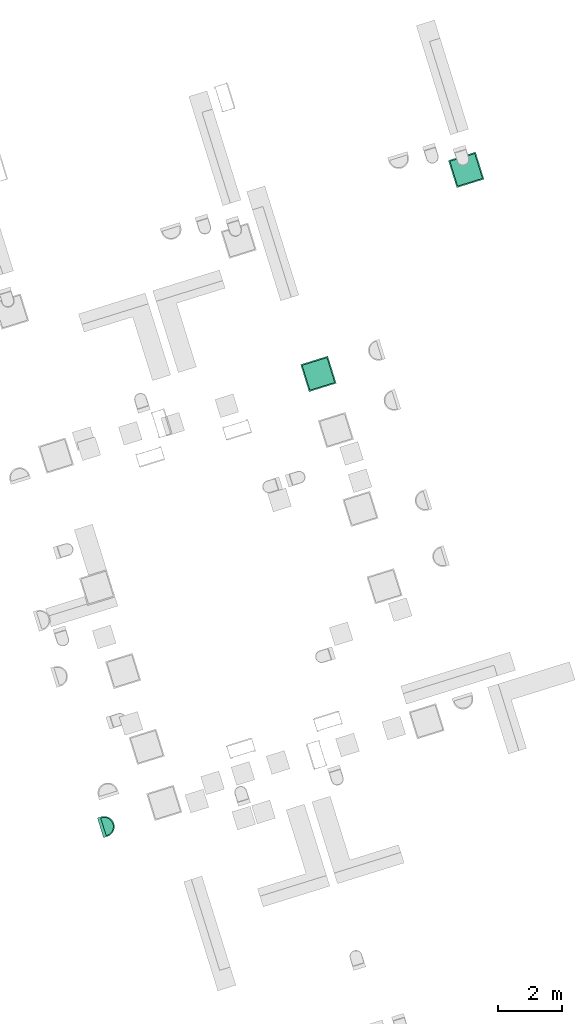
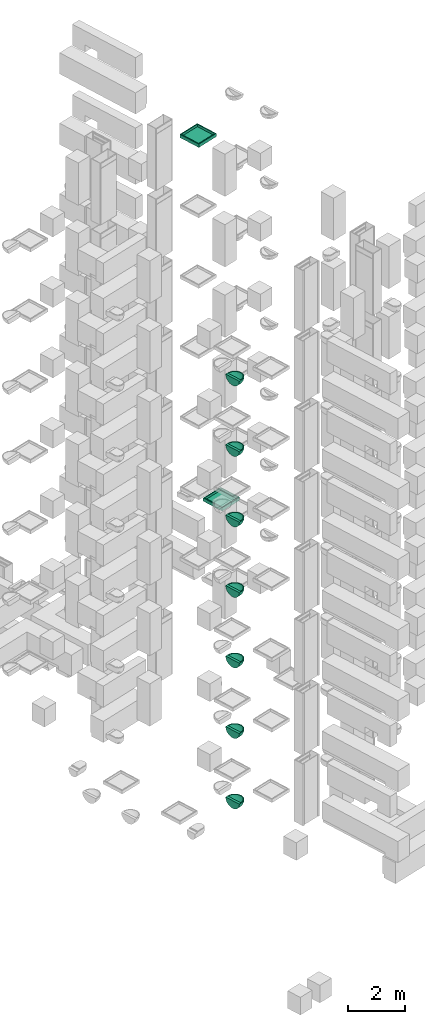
# Not in any storey, part 5 of 17: 9 sanitary terminals.
"""IFC4 model written with IfcOpenShell, lengths in metres."""

from ifc_helpers import new_model, entity, si_unit, converted_unit, direction, frame, origin, place, context, subcontext, project, polygons, source, transform, mapped, material, type_object, type_shapes, element, save


model = new_model("IFC4")

# Units and contexts
model_context = context("Model", 3, precision=1e-05, world=origin(), true_north=direction((6.12323399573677e-17, 1.0)))
body_context = subcontext(model_context, "Body", "Model", "MODEL_VIEW")
ifc_project = project(units=[si_unit("LENGTHUNIT", "METRE"), si_unit("AREAUNIT", "SQUARE_METRE"), converted_unit("PLANEANGLEUNIT", "DEGREE", entity("IfcPlaneAngleMeasure", 0.0174532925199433), si_unit("PLANEANGLEUNIT", "RADIAN"), dimensions=[0, 0, 0, 0, 0, 0, 0]), si_unit("VOLUMEUNIT", "CUBIC_METRE")], contexts=[model_context])

# Sanitary terminals
ifc_material = material(Name="<Unnamed>")
sanitary_terminal_type_1 = type_object("IfcSanitaryTerminalType", Name="NLRS_74_PF_UN_douche_gen:douchebak 900x900mm", PredefinedType="NOTDEFINED", material=ifc_material)
shared_shape_1 = source(origin(), body_context, "Body", "Tessellation", [
    polygons([(1.65924045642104, -0.403499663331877, -6.76), (1.65924045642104, 0.496500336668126, -6.76), (0.759240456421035, 0.496500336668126, -6.76), (0.759240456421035, -0.403499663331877, -6.76), (0.799240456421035, -0.36349966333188, -6.76), (0.799240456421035, 0.456500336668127, -6.76), (1.61924045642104, 0.456500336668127, -6.76), (1.61924045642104, -0.36349966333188, -6.76), (1.65924045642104, -0.403499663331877, -6.9), (0.759240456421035, -0.403499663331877, -6.9), (0.759240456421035, 0.496500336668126, -6.9), (1.65924045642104, 0.496500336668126, -6.9), (1.61924045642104, -0.36349966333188, -6.86), (1.61924045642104, 0.456500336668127, -6.86), (0.799240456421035, 0.456500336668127, -6.86), (0.799240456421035, -0.36349966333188, -6.86)], [[[1, 2, 3, 4], [5, 6, 7, 8]], [[9, 10, 11, 12]], [[4, 10, 9, 1]], [[3, 11, 10, 4]], [[2, 12, 11, 3]], [[1, 9, 12, 2]], [[13, 14, 15, 16]], [[16, 5, 8, 13]], [[15, 6, 5, 16]], [[14, 7, 6, 15]], [[13, 8, 7, 14]]], closed=True),
])
type_shapes(sanitary_terminal_type_1, [shared_shape_1])
placement_1 = place(None, frame((13.1347999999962, 11.9886000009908, 0.0), z_axis=(0.0, 0.0, 1.0), x_axis=(0.954770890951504, 0.297342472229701, 0.0)))
placement_2 = place(placement_1, origin())
placement_3 = place(placement_2, frame((0.0, 0.0, 3.9)))
placement_4 = place(placement_3, origin())
sanitary_terminal_1_placement = place(placement_4, frame((79.4715003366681, 26.3157595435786, 6.9), z_axis=(0.0, 0.0, 1.0), x_axis=(0.0, 1.0, 0.0)))
element("IfcSanitaryTerminal", 1, at=sanitary_terminal_1_placement, type_object=sanitary_terminal_type_1, material=ifc_material, Name="NLRS_74_PF_UN_douche_gen:douchebak 900x900mm", ObjectType="NLRS_74_PF_UN_douche_gen:douchebak 900x900mm", PredefinedType="NOTDEFINED", context=body_context, shape_type="MappedRepresentation", body=[
    mapped(shared_shape_1, transform((0.0, 0.0, 0.0), scale=1.0)),
])
placement_5 = place(placement_2, frame((0.0, 0.0, 24.9)))
placement_6 = place(placement_5, origin())
sanitary_terminal_2_placement = place(placement_6, frame((74.2842404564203, 22.8215003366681, 6.9), z_axis=(0.0, 0.0, 1.0), x_axis=(-1.0, 0.0, 0.0)))
element("IfcSanitaryTerminal", 2, at=sanitary_terminal_2_placement, type_object=sanitary_terminal_type_1, material=ifc_material, Name="NLRS_74_PF_UN_douche_gen:douchebak 900x900mm", ObjectType="NLRS_74_PF_UN_douche_gen:douchebak 900x900mm", PredefinedType="NOTDEFINED", context=body_context, shape_type="MappedRepresentation", body=[
    mapped(shared_shape_1, transform((0.0, 0.0, 0.0), scale=1.0)),
])
sanitary_terminal_type_2 = type_object("IfcSanitaryTerminalType", Name="NLRS_74_PF_WB_wastafel_gen:wastafel", PredefinedType="SINK", material=ifc_material)
shared_shape_2 = source(origin(), body_context, "Body", "Tessellation", [
    polygons([(-0.303081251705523, -0.175000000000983, -6.7), (-0.296836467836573, -0.238404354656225, -6.7), (-0.278342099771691, -0.299372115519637, -6.7), (-0.248308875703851, -0.355560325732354, -6.7), (-0.207890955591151, -0.404809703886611, -6.7), (-0.158641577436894, -0.44522762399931, -6.7), (-0.102453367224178, -0.475260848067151, -6.7), (-0.0414856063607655, -0.493755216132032, -6.7), (0.021918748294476, -0.500000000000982, -6.7), (0.021918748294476, -0.463314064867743, -6.7), (-0.00821701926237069, -0.461734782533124, -6.7), (-0.038024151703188, -0.457013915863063, -6.7), (-0.0671705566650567, -0.449204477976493, -6.7), (-0.0953421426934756, -0.438391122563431, -6.7), (-0.122231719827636, -0.424691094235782, -6.7), (-0.147543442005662, -0.408254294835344, -6.7), (-0.170998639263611, -0.389261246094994, -6.7), (-0.192339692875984, -0.367920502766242, -6.7), (-0.21133265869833, -0.344466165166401, -6.7), (-0.227769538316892, -0.319155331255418, -6.7), (-0.241470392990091, -0.292265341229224, -6.7), (-0.252285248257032, -0.264090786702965, -6.7), (-0.260095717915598, -0.234940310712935, -6.7), (-0.264816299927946, -0.205133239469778, -6.7), (-0.266395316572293, -0.175000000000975, -6.7), (-0.266395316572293, -0.150000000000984, -6.7), (0.021918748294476, -0.150000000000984, -6.7), (0.021918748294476, -0.0499999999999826, -6.7), (-0.303081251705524, -0.0499999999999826, -6.7), (0.346918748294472, -0.175000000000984, -6.7), (0.346918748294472, -0.0499999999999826, -6.7), (0.310232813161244, -0.150000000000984, -6.7), (0.310232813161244, -0.175000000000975, -6.7), (0.308653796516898, -0.205133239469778, -6.7), (0.303933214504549, -0.234940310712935, -6.7), (0.296122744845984, -0.264090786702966, -6.7), (0.285307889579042, -0.292265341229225, -6.7), (0.271607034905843, -0.319155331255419, -6.7), (0.255170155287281, -0.344466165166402, -6.7), (0.236177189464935, -0.367920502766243, -6.7), (0.214836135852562, -0.389261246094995, -6.7), (0.191380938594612, -0.408254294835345, -6.7), (0.166069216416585, -0.424691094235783, -6.7), (0.139179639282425, -0.438391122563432, -6.7), (0.111008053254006, -0.449204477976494, -6.7), (0.0818616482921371, -0.457013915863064, -6.7), (0.0520545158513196, -0.461734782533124, -6.7), (0.0853231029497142, -0.493755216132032, -6.7), (0.146290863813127, -0.475260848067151, -6.7), (0.202479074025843, -0.44522762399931, -6.7), (0.2517284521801, -0.404809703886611, -6.7), (0.292146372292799, -0.355560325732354, -6.7), (0.32217959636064, -0.299372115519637, -6.7), (0.340673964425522, -0.238404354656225, -6.7), (-0.296836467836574, -0.0499999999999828, -6.76340435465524), (-0.278342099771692, -0.049999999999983, -6.82437211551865), (-0.248308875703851, -0.0499999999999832, -6.88056032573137), (-0.207890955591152, -0.0499999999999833, -6.92980970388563), (-0.158641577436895, -0.0499999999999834, -6.97022762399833), (-0.102453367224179, -0.0499999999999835, -7.00026084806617), (-0.0414856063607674, -0.0499999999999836, -7.01875521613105), (0.0219187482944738, -0.0499999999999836, -7.025), (0.085323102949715, -0.0499999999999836, -7.01875521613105), (0.146290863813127, -0.0499999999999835, -7.00026084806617), (0.202479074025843, -0.0499999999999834, -6.97022762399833), (0.2517284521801, -0.0499999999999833, -6.92980970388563), (0.292146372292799, -0.0499999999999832, -6.88056032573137), (0.32217959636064, -0.049999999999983, -6.82437211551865), (0.340673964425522, -0.0499999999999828, -6.76340435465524), (0.34246627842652, -0.175000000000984, -6.75361232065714), (0.329230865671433, -0.175000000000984, -6.8057556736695), (0.307575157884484, -0.175000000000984, -6.85500134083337), (0.278092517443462, -0.175000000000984, -6.9), (0.278092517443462, -0.0749999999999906, -6.9), (0.237763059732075, -0.0749999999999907, -6.94297372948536), (0.190336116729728, -0.0749999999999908, -6.97795789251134), (0.137371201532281, -0.0749999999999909, -7.00380212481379), (0.0806099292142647, -0.074999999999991, -7.01965660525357), (0.0219187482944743, -0.074999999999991, -7.025), (-0.0367724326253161, -0.074999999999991, -7.01965660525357), (-0.0935337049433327, -0.0749999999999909, -7.00380212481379), (-0.146498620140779, -0.0749999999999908, -6.97795789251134), (-0.193925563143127, -0.0749999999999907, -6.94297372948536), (-0.234255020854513, -0.0749999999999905, -6.9), (-0.234255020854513, -0.175000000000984, -6.9), (-0.263737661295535, -0.175000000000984, -6.85500134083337), (-0.285393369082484, -0.175000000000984, -6.8057556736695), (-0.298628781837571, -0.175000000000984, -6.75361232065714), (-0.228099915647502, -0.0499999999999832, -6.9051850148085), (-0.183266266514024, -0.0499999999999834, -6.95001866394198), (-0.130547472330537, -0.0499999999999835, -6.98524423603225), (-0.0719694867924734, -0.0499999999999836, -7.00950803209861), (0.115806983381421, -0.0499999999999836, -7.00950803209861), (0.174384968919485, -0.0499999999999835, -6.98524423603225), (0.227103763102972, -0.0499999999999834, -6.95001866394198), (0.27193741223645, -0.0499999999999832, -6.9051850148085), (0.257927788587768, -0.0749999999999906, -6.92148686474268), (0.214049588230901, -0.0749999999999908, -6.96046581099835), (-0.170212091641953, -0.0749999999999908, -6.96046581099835), (-0.21409029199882, -0.0749999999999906, -6.92148686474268), (-0.120016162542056, -0.0749999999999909, -6.99088000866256), (-0.0651530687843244, -0.0749999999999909, -7.01172936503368), (0.108990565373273, -0.0749999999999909, -7.01172936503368), (0.163853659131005, -0.0749999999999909, -6.99088000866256), (-0.232753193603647, -0.202698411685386, -6.9), (-0.228265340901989, -0.230071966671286, -6.9), (-0.220844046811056, -0.256799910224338, -6.9), (-0.210576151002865, -0.282569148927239, -6.9), (-0.197581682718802, -0.307077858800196, -6.9), (-0.182012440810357, -0.33003893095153, -6.9), (-0.164050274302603, -0.351183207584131, -6.9), (-0.1439051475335, -0.370262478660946, -6.9), (-0.121813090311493, -0.387052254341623, -6.9), (-0.0980340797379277, -0.401354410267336, -6.9), (-0.0728496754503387, -0.412999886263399, -6.9), (-0.0465597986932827, -0.421851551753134, -6.9), (-0.0194777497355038, -0.427806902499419, -6.9), (0.00807674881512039, -0.43079952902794, -6.9), (0.0357845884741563, -0.430798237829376, -6.9), (0.0633306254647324, -0.427804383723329, -6.9), (0.0904016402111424, -0.421850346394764, -6.9), (0.116683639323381, -0.413001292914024, -6.9), (0.141864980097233, -0.401357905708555, -6.9), (0.165644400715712, -0.38705644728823, -6.9), (0.18773840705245, -0.370266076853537, -6.9), (0.207885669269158, -0.351185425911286, -6.9), (0.225849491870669, -0.330039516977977, -6.9), (0.24141970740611, -0.307076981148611, -6.9), (0.254414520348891, -0.282567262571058, -6.9), (0.264682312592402, -0.256797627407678, -6.9), (0.272103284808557, -0.230069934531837, -6.9), (0.27659082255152, -0.202697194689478, -6.9), (-0.257045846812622, -0.297316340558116, -6.81332461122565), (0.300884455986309, -0.297313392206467, -6.81332505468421), (-0.00978342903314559, -0.496877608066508, -6.7), (-0.205655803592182, -0.378737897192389, -6.81102113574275), (0.249493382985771, -0.378737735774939, -6.81102126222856), (0.0536209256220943, -0.496877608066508, -6.7), (0.0219337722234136, -0.481913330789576, -6.80690747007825), (-0.0719694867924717, -0.484508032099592, -6.7), (0.11580698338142, -0.484508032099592, -6.7), (-0.0425022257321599, -0.471258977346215, -6.81707073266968), (-0.165040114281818, -0.416191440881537, -6.81179477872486), (0.20887408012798, -0.416198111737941, -6.81178629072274), (0.0863501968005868, -0.471256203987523, -6.8170719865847), (-0.23446246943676, -0.305265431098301, -6.85140868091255), (0.278301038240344, -0.305263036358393, -6.85140892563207), (-0.120243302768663, -0.443687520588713, -6.81498681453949), (0.164074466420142, -0.443691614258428, -6.81498507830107), (-0.233336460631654, -0.358005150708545, -6.78353976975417), (0.277175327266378, -0.358003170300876, -6.78353992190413), (-0.290060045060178, -0.240925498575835, -6.76283359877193), (0.333897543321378, -0.240925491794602, -6.76283359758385), (-0.275008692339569, -0.237028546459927, -6.81666856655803), (-0.254394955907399, -0.239447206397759, -6.85850014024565), (-0.272362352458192, -0.296908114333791, -6.76451391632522), (0.31884634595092, -0.237026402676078, -6.81666930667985), (0.298232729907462, -0.239444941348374, -6.85850057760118), (0.316201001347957, -0.296905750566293, -6.76451312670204), (-0.0755829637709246, -0.474402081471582, -6.78047862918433), (-0.0690330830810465, -0.449635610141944, -6.84808121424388), (0.119420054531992, -0.474406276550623, -6.7804635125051), (0.112885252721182, -0.449636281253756, -6.84807095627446), (-0.228099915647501, -0.380185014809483, -6.7), (0.27193741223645, -0.380185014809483, -6.7), (-0.183266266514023, -0.425018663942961, -6.7), (0.227103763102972, -0.425018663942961, -6.7), (-0.130547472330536, -0.460244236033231, -6.7), (0.174384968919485, -0.460244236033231, -6.7), (0.278352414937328, -0.175000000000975, -6.74966665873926), (0.238015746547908, -0.175000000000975, -6.79274902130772), (0.190552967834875, -0.175000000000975, -6.82782638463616), (0.137529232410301, -0.175000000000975, -6.85374202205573), (0.0806930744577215, -0.175000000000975, -6.86964132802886), (0.0219187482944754, -0.175000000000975, -6.875), (-0.0368555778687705, -0.175000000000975, -6.86964132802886), (-0.0936917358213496, -0.175000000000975, -6.85374202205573), (-0.146715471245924, -0.175000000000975, -6.82782638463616), (-0.194178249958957, -0.175000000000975, -6.79274902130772), (-0.234514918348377, -0.175000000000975, -6.74966665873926), (-0.119627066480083, -0.322173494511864, -6.80284332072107), (0.163464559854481, -0.32217349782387, -6.8028433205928), (-0.200517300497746, -0.262511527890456, -6.77020203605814), (0.244354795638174, -0.262511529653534, -6.77020203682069), (-0.162633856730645, -0.347041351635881, -6.75485875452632), (0.206471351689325, -0.347041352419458, -6.75485875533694), (0.00220012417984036, -0.367185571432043, -6.81134437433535), (-0.0912046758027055, -0.393814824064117, -6.76200981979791), (0.135042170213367, -0.393814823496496, -6.76200982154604), (0.0498196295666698, -0.280825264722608, -6.85601887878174), (-0.0620730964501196, -0.266760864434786, -6.85025041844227), (0.160889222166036, -0.248929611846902, -6.83433540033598), (0.0405814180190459, -0.417340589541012, -6.76574926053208), (0.0863370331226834, -0.354389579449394, -6.81323879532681), (-0.00909478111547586, -0.420066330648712, -6.76120050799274), (-0.0478694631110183, -0.381606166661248, -6.79097405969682), (-0.0422183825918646, -0.327597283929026, -6.82968821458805), (-0.0074080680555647, -0.286981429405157, -6.8536858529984), (-0.00719351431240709, -0.22811728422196, -6.869305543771), (-0.0504034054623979, -0.422275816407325, -6.7481140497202), (0.115439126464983, -0.298042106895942, -6.83590134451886), (0.101584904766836, -0.237319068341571, -6.85886022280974), (-0.144773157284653, -0.251326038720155, -6.81835264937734), (0.0860600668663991, -0.418745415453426, -6.75518056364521), (0.278341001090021, -0.150000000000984, -6.74968131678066), (0.238003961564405, -0.150000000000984, -6.79275951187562), (0.19054233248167, -0.150000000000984, -6.82783283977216), (0.137520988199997, -0.150000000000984, -6.85374515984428), (0.080687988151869, -0.150000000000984, -6.86964226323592), (0.021917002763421, -0.150000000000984, -6.87499999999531), (-0.0368543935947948, -0.150000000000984, -6.869641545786), (-0.0936885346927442, -0.150000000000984, -6.85374324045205), (-0.146711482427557, -0.150000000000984, -6.8278288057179), (-0.19417475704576, -0.150000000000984, -6.79275213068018), (-0.234512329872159, -0.150000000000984, -6.74966998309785)], [[[9, 138, 48, 141, 49, 169, 50, 167, 51, 165, 52, 53, 54, 30, 31, 28, 29, 1, 2, 3, 4, 164, 5, 166, 6, 168, 7, 140, 8, 135], [10, 11, 12, 13, 14, 15, 16, 17, 18, 19, 20, 21, 22, 23, 24, 25, 26, 27, 32, 33, 34, 35, 36, 37, 38, 39, 40, 41, 42, 43, 44, 45, 46, 47]], [[1, 29, 88]], [[87, 88, 55]], [[56, 86, 87]], [[58, 100, 89]], [[93, 103, 63]], [[91, 60, 101]], [[97, 75, 66]], [[61, 102, 92]], [[61, 62, 80]], [[84, 85, 86]], [[94, 65, 76]], [[89, 84, 57]], [[86, 56, 57]], [[88, 29, 55]], [[55, 56, 87]], [[86, 57, 84]], [[82, 59, 91]], [[92, 81, 60]], [[58, 90, 83]], [[59, 82, 99]], [[93, 64, 77]], [[59, 99, 90]], [[84, 89, 100]], [[100, 58, 83]], [[81, 101, 60]], [[62, 79, 80]], [[103, 93, 77]], [[98, 76, 65]], [[98, 95, 75]], [[95, 66, 75]], [[101, 82, 91]], [[104, 94, 76]], [[69, 70, 71]], [[72, 73, 74]], [[71, 72, 68]], [[80, 102, 61]], [[78, 79, 62]], [[30, 70, 31]], [[83, 90, 99]], [[78, 63, 103]], [[104, 77, 64]], [[65, 95, 98]], [[102, 81, 92]], [[62, 63, 78]], [[96, 67, 74]], [[97, 66, 96]], [[67, 72, 74]], [[72, 67, 68]], [[68, 69, 71]], [[69, 31, 70]], [[97, 96, 74]], [[94, 104, 64]], [[28, 31, 69, 68, 67, 96, 66, 95, 65, 94, 64, 93, 63, 62, 61, 92, 60, 91, 59, 90, 58, 89, 57, 56, 55, 29]], [[6, 136, 143]], [[52, 159, 53]], [[158, 157, 134]], [[111, 112, 143]], [[136, 150, 146]], [[143, 110, 111]], [[129, 147, 128]], [[110, 143, 136]], [[148, 143, 112]], [[159, 157, 153]], [[161, 115, 116]], [[139, 135, 142]], [[53, 159, 153]], [[142, 117, 118]], [[143, 148, 7]], [[8, 160, 142]], [[134, 151, 147]], [[148, 161, 160]], [[114, 148, 113]], [[7, 148, 140]], [[8, 140, 160]], [[130, 131, 158]], [[136, 146, 109]], [[152, 3, 2]], [[160, 140, 148]], [[87, 152, 88]], [[154, 133, 156]], [[1, 88, 2]], [[2, 88, 152]], [[165, 51, 151]], [[147, 151, 137]], [[4, 3, 156]], [[142, 161, 116]], [[139, 142, 118]], [[107, 155, 106]], [[146, 107, 108]], [[124, 125, 149]], [[166, 5, 150]], [[155, 86, 85]], [[118, 119, 139]], [[86, 154, 87]], [[154, 86, 155]], [[148, 114, 161]], [[139, 145, 138]], [[107, 146, 155]], [[136, 109, 110]], [[150, 164, 133]], [[85, 105, 155]], [[142, 160, 161]], [[48, 138, 145]], [[158, 73, 72]], [[146, 108, 109]], [[9, 135, 139]], [[9, 139, 138]], [[119, 145, 139]], [[8, 142, 135]], [[120, 121, 145]], [[124, 149, 123]], [[49, 141, 149]], [[137, 50, 144]], [[156, 152, 154]], [[133, 155, 146]], [[137, 144, 127]], [[112, 113, 148]], [[162, 145, 163]], [[134, 165, 151]], [[149, 125, 144]], [[127, 128, 137]], [[120, 145, 119]], [[155, 133, 154]], [[48, 145, 162]], [[152, 156, 3]], [[133, 146, 150]], [[168, 6, 143, 7]], [[144, 125, 126]], [[144, 126, 127]], [[163, 145, 121]], [[151, 167, 137]], [[147, 137, 128]], [[142, 116, 117]], [[157, 158, 72]], [[158, 147, 130]], [[141, 48, 162]], [[158, 134, 147]], [[147, 129, 130]], [[72, 71, 157]], [[158, 132, 73]], [[87, 154, 152]], [[70, 54, 153]], [[163, 122, 123]], [[167, 50, 137]], [[133, 164, 156]], [[54, 70, 30]], [[71, 70, 153]], [[136, 166, 150]], [[159, 134, 157]], [[158, 131, 132]], [[53, 153, 54]], [[169, 49, 144, 50]], [[105, 106, 155]], [[150, 5, 164]], [[165, 134, 159]], [[71, 153, 157]], [[114, 115, 161]], [[162, 149, 141]], [[163, 123, 149]], [[162, 163, 149]], [[122, 163, 121]], [[4, 156, 164]], [[159, 52, 165]], [[166, 136, 6]], [[167, 151, 51]], [[149, 144, 49]], [[185, 16, 15]], [[198, 187, 190]], [[185, 18, 17]], [[190, 202, 199]], [[187, 198, 197]], [[20, 185, 183]], [[15, 14, 188]], [[181, 197, 191]], [[193, 195, 10]], [[204, 194, 193]], [[177, 203, 191]], [[196, 187, 197]], [[196, 200, 195]], [[10, 195, 11]], [[185, 15, 188]], [[187, 196, 195]], [[200, 196, 188]], [[191, 197, 198]], [[22, 183, 23]], [[13, 200, 188]], [[180, 24, 23]], [[190, 194, 201]], [[202, 201, 192]], [[25, 24, 180]], [[183, 22, 21]], [[200, 12, 11]], [[179, 183, 203]], [[178, 203, 177]], [[201, 202, 190]], [[180, 183, 179]], [[23, 183, 180]], [[19, 18, 185]], [[20, 183, 21]], [[172, 184, 171]], [[13, 188, 14]], [[185, 20, 19]], [[190, 199, 198]], [[16, 185, 17]], [[181, 188, 196]], [[191, 199, 176]], [[193, 187, 195]], [[194, 189, 182]], [[189, 43, 186]], [[184, 192, 182]], [[173, 174, 202]], [[45, 44, 189]], [[204, 47, 46]], [[186, 43, 42]], [[186, 41, 40]], [[181, 196, 197]], [[38, 184, 186]], [[187, 193, 194]], [[45, 189, 204]], [[39, 38, 186]], [[182, 201, 194]], [[186, 42, 41]], [[199, 175, 176]], [[184, 38, 37]], [[189, 44, 43]], [[177, 191, 176]], [[192, 184, 172]], [[172, 173, 192]], [[186, 184, 182]], [[203, 183, 181]], [[191, 198, 199]], [[185, 188, 181]], [[184, 170, 171]], [[11, 195, 200]], [[12, 200, 13]], [[184, 35, 170]], [[170, 34, 33]], [[34, 170, 35]], [[193, 10, 47]], [[186, 40, 39]], [[175, 199, 202]], [[36, 35, 184]], [[36, 184, 37]], [[183, 185, 181]], [[201, 182, 192]], [[204, 46, 45]], [[187, 194, 190]], [[189, 186, 182]], [[173, 202, 192]], [[202, 174, 175]], [[191, 203, 181]], [[179, 203, 178]], [[194, 204, 189]], [[47, 204, 193]], [[180, 26, 25]], [[179, 215, 180]], [[213, 178, 177]], [[179, 178, 214]], [[212, 177, 176]], [[215, 26, 180]], [[214, 215, 179]], [[210, 211, 176]], [[212, 213, 177]], [[211, 212, 176]], [[214, 178, 213]], [[176, 175, 210]], [[209, 175, 174]], [[173, 208, 174]], [[206, 172, 171]], [[173, 172, 207]], [[205, 171, 170]], [[209, 174, 208]], [[208, 173, 207]], [[171, 205, 206]], [[206, 207, 172]], [[205, 170, 32]], [[33, 32, 170]], [[175, 209, 210]], [[32, 27, 26, 215, 214, 213, 212, 211, 210, 209, 208, 207, 206, 205]], [[82, 101, 81, 102, 80, 79, 78, 103, 77, 104, 76, 98, 75, 97, 74, 84, 100, 83, 99]], [[73, 132, 131, 130, 129, 128, 127, 126, 125, 124, 123, 122, 121, 120, 119, 118, 117, 116, 115, 114, 113, 112, 111, 110, 109, 108, 107, 106, 105, 85, 84, 74]]], closed=True),
])
type_shapes(sanitary_terminal_type_2, [shared_shape_2])
placement_7 = place(placement_2, frame((0.0, 0.0, 6.9)))
placement_8 = place(placement_7, origin())
sanitary_terminal_3_placement = place(placement_8, frame((62.225, 11.1530812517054, 7.525), z_axis=(0.0, 0.0, 1.0), x_axis=(0.0, 1.0, 0.0)))
element("IfcSanitaryTerminal", 3, at=sanitary_terminal_3_placement, type_object=sanitary_terminal_type_2, material=ifc_material, Name="NLRS_74_PF_WB_wastafel_gen:wastafel", ObjectType="NLRS_74_PF_WB_wastafel_gen:wastafel", PredefinedType="SINK", context=body_context, shape_type="MappedRepresentation", body=[
    mapped(shared_shape_2, transform((0.0, 0.0, 0.0), scale=1.0)),
])
placement_9 = place(placement_2, frame((0.0, 0.0, 9.9)))
placement_10 = place(placement_9, origin())
sanitary_terminal_4_placement = place(placement_10, frame((62.225, 11.1530812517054, 7.525), z_axis=(0.0, 0.0, 1.0), x_axis=(0.0, 1.0, 0.0)))
element("IfcSanitaryTerminal", 4, at=sanitary_terminal_4_placement, type_object=sanitary_terminal_type_2, material=ifc_material, Name="NLRS_74_PF_WB_wastafel_gen:wastafel", ObjectType="NLRS_74_PF_WB_wastafel_gen:wastafel", PredefinedType="SINK", context=body_context, shape_type="MappedRepresentation", body=[
    mapped(shared_shape_2, transform((0.0, 0.0, 0.0), scale=1.0)),
])
placement_11 = place(placement_2, frame((0.0, 0.0, 12.9)))
placement_12 = place(placement_11, origin())
sanitary_terminal_5_placement = place(placement_12, frame((62.225, 11.1530812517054, 7.525), z_axis=(0.0, 0.0, 1.0), x_axis=(0.0, 1.0, 0.0)))
element("IfcSanitaryTerminal", 5, at=sanitary_terminal_5_placement, type_object=sanitary_terminal_type_2, material=ifc_material, Name="NLRS_74_PF_WB_wastafel_gen:wastafel", ObjectType="NLRS_74_PF_WB_wastafel_gen:wastafel", PredefinedType="SINK", context=body_context, shape_type="MappedRepresentation", body=[
    mapped(shared_shape_2, transform((0.0, 0.0, 0.0), scale=1.0)),
])
placement_13 = place(placement_2, frame((0.0, 0.0, 15.9)))
placement_14 = place(placement_13, origin())
sanitary_terminal_6_placement = place(placement_14, frame((62.225, 11.1530812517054, 7.525), z_axis=(0.0, 0.0, 1.0), x_axis=(0.0, 1.0, 0.0)))
element("IfcSanitaryTerminal", 6, at=sanitary_terminal_6_placement, type_object=sanitary_terminal_type_2, material=ifc_material, Name="NLRS_74_PF_WB_wastafel_gen:wastafel", ObjectType="NLRS_74_PF_WB_wastafel_gen:wastafel", PredefinedType="SINK", context=body_context, shape_type="MappedRepresentation", body=[
    mapped(shared_shape_2, transform((0.0, 0.0, 0.0), scale=1.0)),
])
placement_15 = place(placement_2, frame((0.0, 0.0, 18.9)))
placement_16 = place(placement_15, origin())
sanitary_terminal_7_placement = place(placement_16, frame((62.225, 11.1530812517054, 7.525), z_axis=(0.0, 0.0, 1.0), x_axis=(0.0, 1.0, 0.0)))
element("IfcSanitaryTerminal", 7, at=sanitary_terminal_7_placement, type_object=sanitary_terminal_type_2, material=ifc_material, Name="NLRS_74_PF_WB_wastafel_gen:wastafel", ObjectType="NLRS_74_PF_WB_wastafel_gen:wastafel", PredefinedType="SINK", context=body_context, shape_type="MappedRepresentation", body=[
    mapped(shared_shape_2, transform((0.0, 0.0, 0.0), scale=1.0)),
])
placement_17 = place(placement_2, frame((0.0, 0.0, 21.9)))
placement_18 = place(placement_17, origin())
sanitary_terminal_8_placement = place(placement_18, frame((62.225, 11.1530812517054, 7.525), z_axis=(0.0, 0.0, 1.0), x_axis=(0.0, 1.0, 0.0)))
element("IfcSanitaryTerminal", 8, at=sanitary_terminal_8_placement, type_object=sanitary_terminal_type_2, material=ifc_material, Name="NLRS_74_PF_WB_wastafel_gen:wastafel", ObjectType="NLRS_74_PF_WB_wastafel_gen:wastafel", PredefinedType="SINK", context=body_context, shape_type="MappedRepresentation", body=[
    mapped(shared_shape_2, transform((0.0, 0.0, 0.0), scale=1.0)),
])
placement_19 = place(placement_5, origin())
sanitary_terminal_9_placement = place(placement_19, frame((62.225, 11.1530812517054, 7.525), z_axis=(0.0, 0.0, 1.0), x_axis=(0.0, 1.0, 0.0)))
element("IfcSanitaryTerminal", 9, at=sanitary_terminal_9_placement, type_object=sanitary_terminal_type_2, material=ifc_material, Name="NLRS_74_PF_WB_wastafel_gen:wastafel", ObjectType="NLRS_74_PF_WB_wastafel_gen:wastafel", PredefinedType="SINK", context=body_context, shape_type="MappedRepresentation", body=[
    mapped(shared_shape_2, transform((0.0, 0.0, 0.0), scale=1.0)),
])

save(model, "model.ifc")
